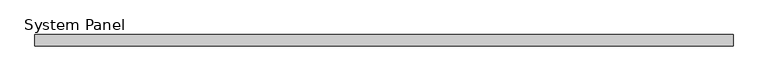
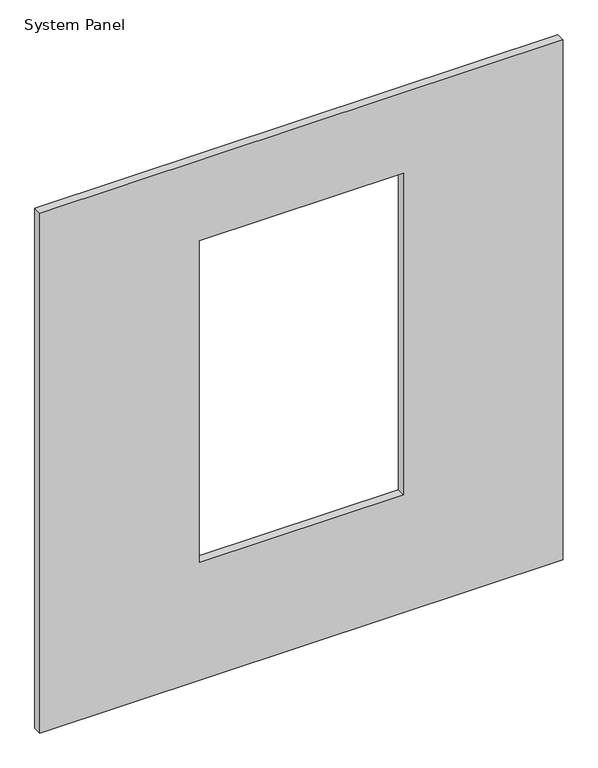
"""IFC4 building model written with IfcOpenShell, lengths in millimetres: plate geometry."""

from ifc_helpers import new_model, si_unit, frame, origin, place, context, project, spatial, polyline, outline, extrude, source, transform, mapped, element, save


def system_panel_9af6622a(model_context):
    return source(origin(), model_context, "Body", "SweptSolid", [
        extrude(outline(polyline([(0.0, -1173.1625), (0.0, 1173.1625), (2463.8, 1173.1625), (2463.8, -1173.1625), (0.0, -1173.1625)]), holes=[polyline([(558.8, 457.2), (558.8, -457.2), (2082.8, -457.2), (2082.8, 457.2), (558.8, 457.2)])]), frame((0.0, -19.05, 0.0), z_axis=(0.0, 1.0, 0.0), x_axis=(0.0, 0.0, 1.0)), (0.0, 0.0, 1.0), 38.1),
    ])


if __name__ == "__main__":
    model = new_model("IFC4")
    model_context = context("Model", 3, world=origin())
    ifc_project = project(units=[si_unit("LENGTHUNIT", "METRE", prefix="MILLI")], contexts=[model_context])
    site = spatial("IfcSite", under=ifc_project)
    building = spatial("IfcBuilding", under=site)
    placement = place(None, origin())
    system_panel_shape = system_panel_9af6622a(model_context)
    element("IfcPlate", 1, ObjectType="System Panel : 1/2\" Plywood & 1\" Rigid Ins.", at=placement, inside=building, context=model_context, shape_type="MappedRepresentation", body=[
        mapped(system_panel_shape, transform((0.0, 0.0, 0.0), x_axis=(1.0, 0.0, 0.0), y_axis=(0.0, 1.0, 0.0), z_axis=(0.0, 0.0, 1.0))),
    ])
    save(model, "model.ifc")
